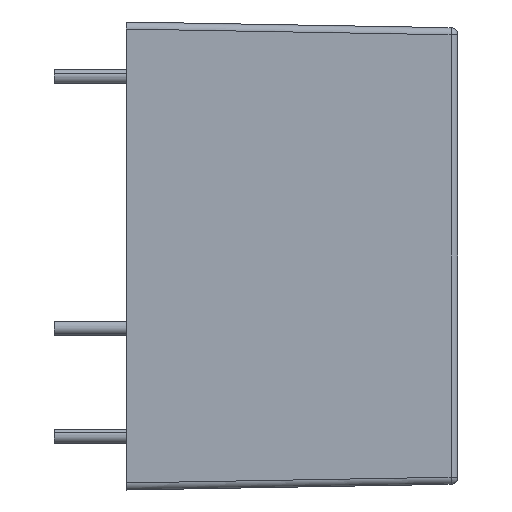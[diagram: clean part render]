
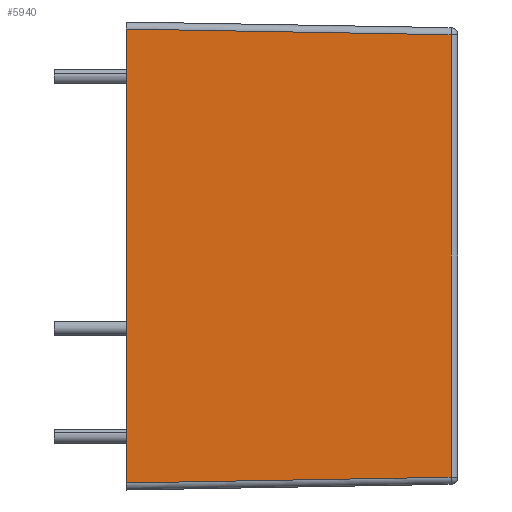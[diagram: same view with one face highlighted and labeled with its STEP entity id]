
A CAD part, left-side view. The second image highlights one B-rep face of the part: STEP entity #5940.
In plain terms, the highlighted planar face has unit normal (-1, -0.018, 0).
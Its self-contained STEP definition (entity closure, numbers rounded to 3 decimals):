
#343 = CARTESIAN_POINT ( 'NONE',  ( -33.02, 0., 16.51 ) ) ;
#484 = CARTESIAN_POINT ( 'NONE',  ( -32.62, -22.909, 15.61 ) ) ;
#1102 = CARTESIAN_POINT ( 'NONE',  ( -33.02, 0.009, 16.01 ) ) ;
#3657 = CARTESIAN_POINT ( 'NONE',  ( -33.02, 0., 16.01 ) ) ;
#4762 = VERTEX_POINT ( 'NONE', #24010 ) ;
#5940 = ADVANCED_FACE ( 'NONE', ( #20746 ), #10840, .T. ) ;
#7391 = CARTESIAN_POINT ( 'NONE',  ( -32.62, -22.909, 16.51 ) ) ;
#9074 = DIRECTION ( 'NONE',  ( 0., 0., 1. ) ) ;
#10382 = EDGE_CURVE ( 'NONE', #4762, #10488, #12528, .T. ) ;
#10488 = VERTEX_POINT ( 'NONE', #12655 ) ;
#10840 = PLANE ( 'NONE',  #12696 ) ;
#11849 = ORIENTED_EDGE ( 'NONE', *, *, #27102, .F. ) ;
#12199 = EDGE_CURVE ( 'NONE', #10488, #23483, #26501, .T. ) ;
#12528 = LINE ( 'NONE', #25824, #17719 ) ;
#12655 = CARTESIAN_POINT ( 'NONE',  ( -32.62, -22.909, -15.61 ) ) ;
#12696 = AXIS2_PLACEMENT_3D ( 'NONE', #24284, #23996, #28563 ) ;
#13186 = VECTOR ( 'NONE', #16485, 1000. ) ;
#14431 = ORIENTED_EDGE ( 'NONE', *, *, #12199, .T. ) ;
#15942 = LINE ( 'NONE', #1102, #13186 ) ;
#16485 = DIRECTION ( 'NONE',  ( -0.017, 1., 0.017 ) ) ;
#17719 = VECTOR ( 'NONE', #21059, 1000. ) ;
#18153 = ORIENTED_EDGE ( 'NONE', *, *, #10382, .T. ) ;
#18487 = EDGE_CURVE ( 'NONE', #23483, #21526, #15942, .T. ) ;
#19932 = ORIENTED_EDGE ( 'NONE', *, *, #18487, .T. ) ;
#20251 = VECTOR ( 'NONE', #22798, 1000. ) ;
#20746 = FACE_OUTER_BOUND ( 'NONE', #27240, .T. ) ;
#21059 = DIRECTION ( 'NONE',  ( 0.017, -1., 0.017 ) ) ;
#21526 = VERTEX_POINT ( 'NONE', #3657 ) ;
#22798 = DIRECTION ( 'NONE',  ( 0., 0., 1. ) ) ;
#23483 = VERTEX_POINT ( 'NONE', #484 ) ;
#23996 = DIRECTION ( 'NONE',  ( -1., -0.017, 0. ) ) ;
#24010 = CARTESIAN_POINT ( 'NONE',  ( -33.02, 0., -16.01 ) ) ;
#24116 = VECTOR ( 'NONE', #9074, 1000. ) ;
#24284 = CARTESIAN_POINT ( 'NONE',  ( -33.02, 0., 16.51 ) ) ;
#25824 = CARTESIAN_POINT ( 'NONE',  ( -33.01, -0.567, -16. ) ) ;
#26501 = LINE ( 'NONE', #7391, #20251 ) ;
#27102 = EDGE_CURVE ( 'NONE', #4762, #21526, #27585, .T. ) ;
#27240 = EDGE_LOOP ( 'NONE', ( #14431, #19932, #11849, #18153 ) ) ;
#27585 = LINE ( 'NONE', #343, #24116 ) ;
#28563 = DIRECTION ( 'NONE',  ( 0.017, -1., 0. ) ) ;
